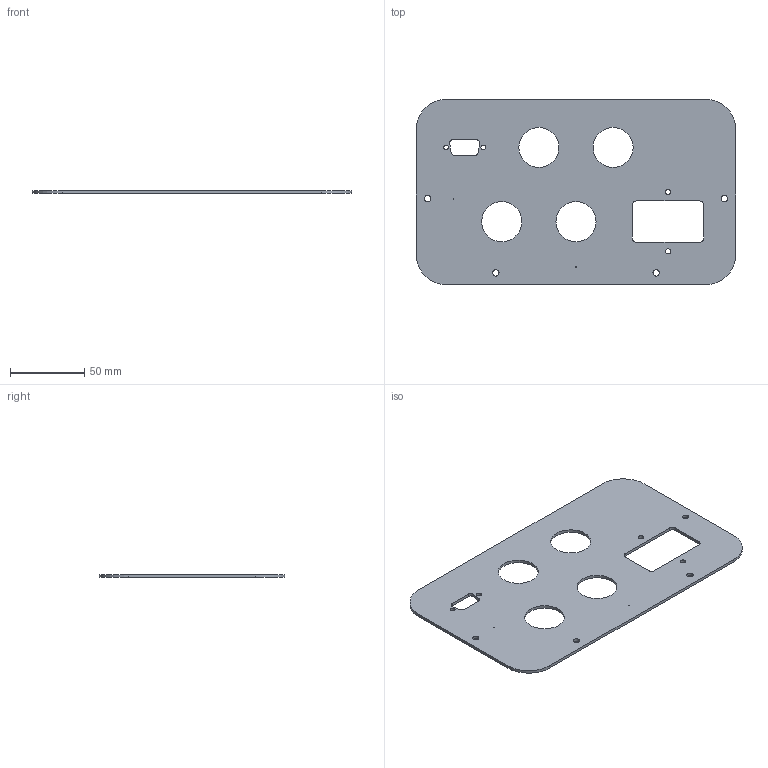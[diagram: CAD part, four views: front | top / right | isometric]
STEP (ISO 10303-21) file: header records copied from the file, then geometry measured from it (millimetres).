
FILE_DESCRIPTION (( 'STEP AP203' ), '1' );
FILE_NAME ('ORW-71.24.30.001 Ïàíåëü çàäíÿÿ.STEP', '2024-11-12T09:26:17', ( 'Àíäðåé' ), ( '' ), 'SwSTEP 2.0', 'SolidWorks 2023', '' );
FILE_SCHEMA (( 'CONFIG_CONTROL_DESIGN' ));
Length unit declared in the file: millimetre
Products named in the file (1): ORW-71.24.30.001 Панель задняя
Bounding box: 215 x 125 x 2 mm (x, y, z)
Volume: 45218.7 mm3; surface area: 47793 mm2
Topology: 1 solids, 1 shells, 40 faces, 115 edges, 77 vertices
Faces by surface type: cylinder 26, plane 14
Full cylindrical faces by diameter (mm): 0.5 x2, 3.2 x2, 3.5 x2, 4.3 x4, 27 x4
Entity records: 1401 total; most frequent: DIRECTION 234, CARTESIAN_POINT 217, ORIENTED_EDGE 200, EDGE_CURVE 100, AXIS2_PLACEMENT_3D 93, EDGE_LOOP 86, VERTEX_POINT 76, FACE_OUTER_BOUND 54
